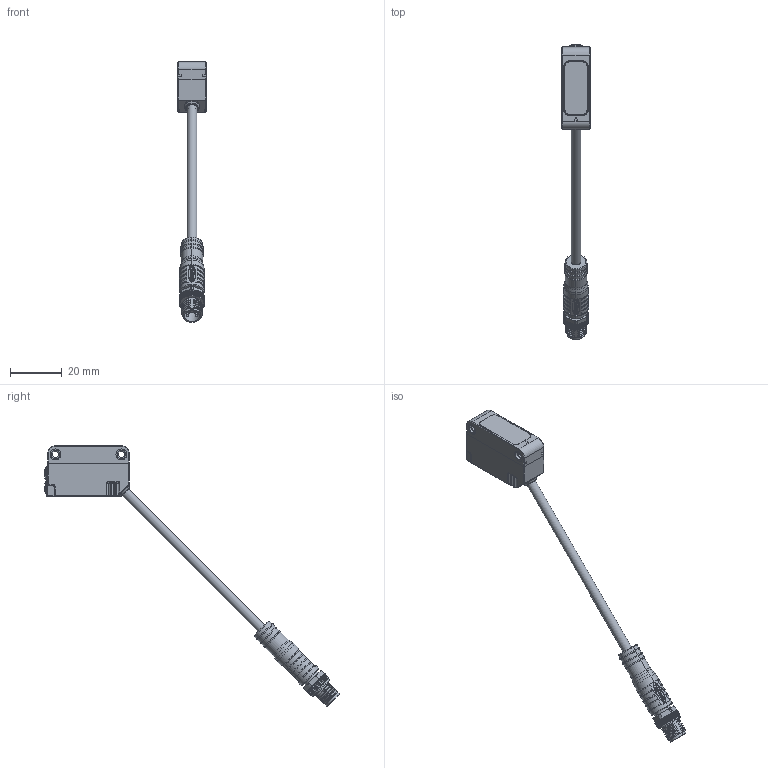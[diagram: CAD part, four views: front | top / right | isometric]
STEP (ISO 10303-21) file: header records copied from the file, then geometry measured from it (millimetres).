
FILE_DESCRIPTION(/* description */ (''),/* implementation_level */ '2;1');
FILE_NAME(/* name */ 'DSD-1159.stp',/* time_stamp */ '2024-06-25T11:39:02+02:00',/* author */ (''),/* organization */ (''),/* preprocessor_version */ 'ST-DEVELOPER v16.701',/* originating_system */ 'SIEMENS PLM Software NX 1946',/* authorisation */ '');
FILE_SCHEMA (('AUTOMOTIVE_DESIGN { 1 0 10303 214 3 1 1 1 }'));
Length unit declared in the file: millimetre
Products named in the file (5): MP041762_01-S3N Pigtail Seal Ring; AP061285_00-Optic Box Group per DSD; SF009243_02-S3N Cable 4P _MAT-0460_ Pigtail M8_MODEL; AP061502_00-Bottom Cover per DSD 1159_MODEL; AS008632_00-S3N - DSD
Assembly tree (4 placements, depth 4):
  AS008632_00-S3N - DSD
    AP061285_00-Optic Box Group per DSD
    AP061502_00-Bottom Cover per DSD 1159_MODEL
      SF009243_02-S3N Cable 4P _MAT-0460_ Pigtail M8_MODEL
        MP041762_01-S3N Pigtail Seal Ring
Bounding box: 10.82 x 113.72 x 100.51 mm (x, y, z)
Volume: 9650 mm3; surface area: 7717.8 mm2
Topology: 19 solids, 36 shells, 2551 faces, 6685 edges, 4274 vertices
Faces by surface type: plane 913, cylinder 780, extrusion 309, bspline 178, torus 176, cone 129, sphere 66
Full cylindrical faces by diameter (mm): 0.5 x2, 0.6 x4, 1 x22, 2.4 x1, 2.5 x2, 3.2 x4, 3.454 x1, 3.7 x2, 3.8 x1, 4.2 x8, 4.244 x1, 4.5 x2, 4.75 x2, 4.85 x2, 5 x2, 5.4 x1, 6.1 x1
Entity records: 94995 total; most frequent: CARTESIAN_POINT 28831, ORIENTED_EDGE 12874, DIRECTION 10905, EDGE_CURVE 6486, VERTEX_POINT 4236, AXIS2_PLACEMENT_3D 3698, VECTOR 3509, LINE 3200
